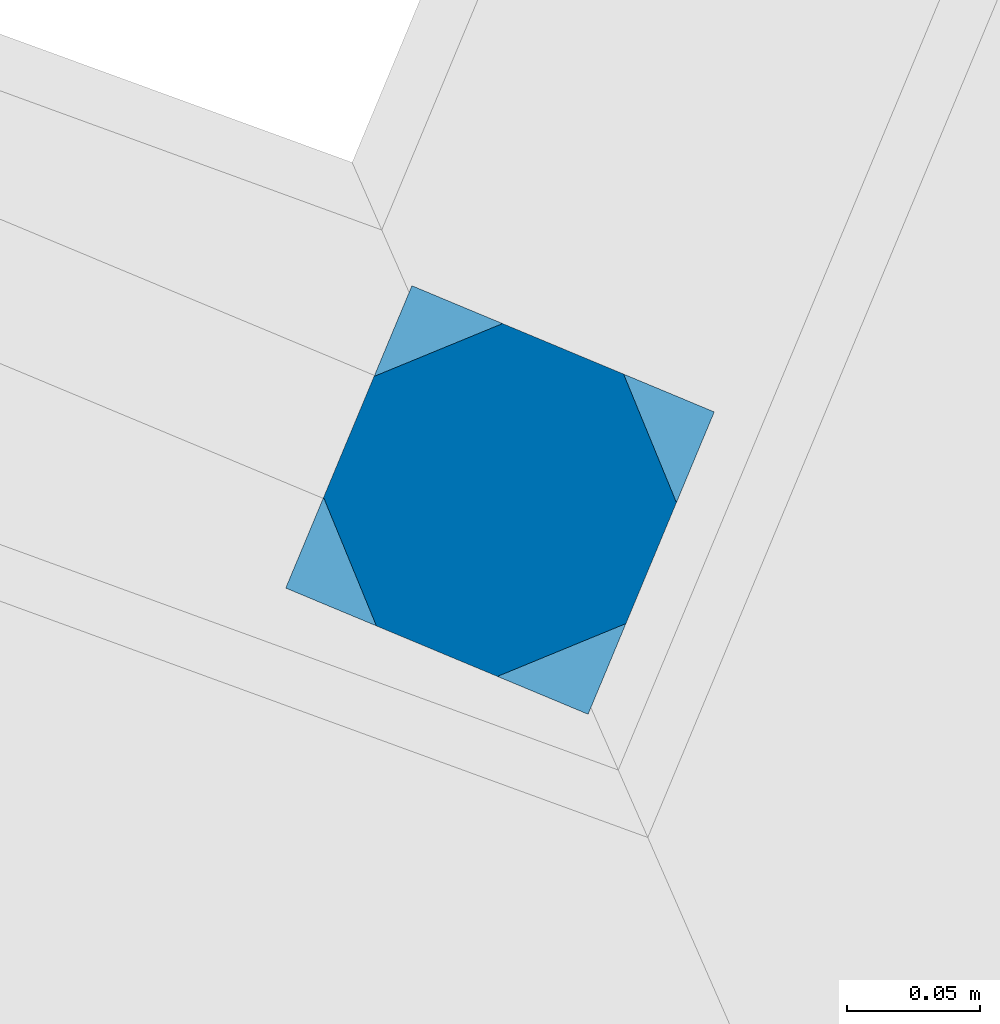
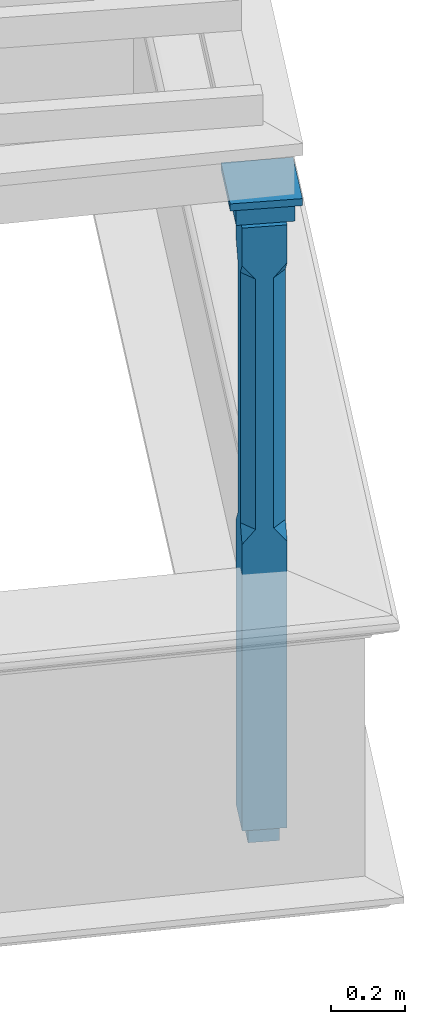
# One storey, part 6 of 7: 1 column.
"""IFC4 building model written with IfcOpenShell, lengths in metres."""

from ifc_helpers import new_model, si_unit, frame, origin, origin_with_axes, place, context, subcontext, project, spatial, faceted_brep, source, transform, mapped, type_object, type_shapes, element, save


model = new_model("IFC4")

# Units and contexts
model_context = context("Model", 3, world=origin_with_axes())
body_context = subcontext(model_context, "Body", "Model", "MODEL_VIEW")
ifc_project = project(units=[si_unit("PLANEANGLEUNIT", "RADIAN"), si_unit("MASSUNIT", "GRAM", prefix="KILO"), si_unit("FORCEUNIT", "NEWTON", prefix="KILO"), si_unit("LENGTHUNIT", "METRE"), si_unit("AREAUNIT", "SQUARE_METRE"), si_unit("VOLUMEUNIT", "CUBIC_METRE")], contexts=[model_context, model_context])

# Sites, building, storey
site_1_placement = place(None, origin_with_axes())
site_1 = spatial("IfcSite", under=ifc_project, at=site_1_placement, Name="Tamar")
site_2_placement = place(site_1_placement, origin_with_axes())
site_2 = spatial("IfcSite", under=site_1, at=site_2_placement, Name="Site plot-13", CompositionType="ELEMENT")
building_placement = place(None, origin_with_axes())
building = spatial("IfcBuilding", under=site_2, at=building_placement, Name="Building plot-13", CompositionType="ELEMENT")
storey_placement = place(None, frame((0.0, 0.0, 29.0), z_axis=(0.0, 0.0, 1.0), x_axis=(1.0, 0.0, 0.0)))
storey = spatial("IfcBuildingStorey", under=building, at=storey_placement, Name="plot-13 1", CompositionType="ELEMENT", Elevation=29.0)

# Column
column_type = type_object("IfcColumnType", Name="pergola post", PredefinedType="NOTDEFINED")
shared_shape = source(origin(), body_context, "Body", "Brep", [
    faceted_brep([(0.0246, -0.0615, 1.87), (0.0615, -0.0246, 1.87), (0.0615, -0.0615, 1.916667), (0.0615, -0.0246, 1.044444), (0.0246, -0.0615, 1.044444), (0.0615, 0.0246, 1.87), (0.0615, 0.0615, 1.916667), (-0.0246, -0.0615, 1.87), (-0.0615, -0.0615, 1.916667), (-0.0246, -0.0615, 1.044444), (0.0615, -0.0615, 0.997778), (0.0615, 0.0246, 1.044444), (0.0246, 0.0615, 1.87), (0.0615, 0.0615, 2.041111), (0.0615, -0.0615, 2.041111), (-0.0615, -0.0615, 2.041111), (-0.0615, -0.0246, 1.87), (-0.0615, -0.0246, 1.044444), (-0.0615, -0.0615, 0.997778), (0.0615, 0.0615, 0.997778), (0.0246, 0.0615, 1.044444), (-0.0246, 0.0615, 1.87), (-0.0615, 0.0615, 1.916667), (0.04305, 0.04305, 2.041111), (0.04305, -0.04305, 2.041111), (-0.0615, 0.0615, 2.041111), (-0.04305, -0.04305, 2.041111), (-0.0615, 0.0246, 1.87), (-0.0615, 0.0246, 1.044444), (0.0615, -0.0615, 0.053333), (-0.0615, -0.0615, 0.053333), (0.0615, 0.0615, 0.053333), (-0.0246, 0.0615, 1.044444), (-0.04305, 0.04305, 2.041111), (0.04305, 0.04305, 2.064444), (0.04305, -0.04305, 2.064444), (-0.04305, -0.04305, 2.064444), (-0.0615, 0.0615, 0.997778), (-0.0615, 0.0615, 0.053333), (-0.04305, -0.04305, 0.053333), (0.04305, -0.04305, 0.053333), (0.04305, 0.04305, 0.053333), (-0.04305, 0.04305, 2.064444), (0.07995, 0.07995, 2.064444), (0.07995, -0.07995, 2.064444), (-0.07995, -0.07995, 2.064444), (-0.04305, 0.04305, 0.053333), (-0.04305, -0.04305, 0.0), (0.04305, -0.04305, 0.0), (0.04305, 0.04305, 0.0), (-0.07995, 0.07995, 2.064444), (0.07995, 0.07995, 2.126667), (0.07995, -0.07995, 2.126667), (-0.07995, -0.07995, 2.126667), (-0.04305, 0.04305, 0.0), (-0.07995, 0.07995, 2.126667), (0.0984, 0.0984, 2.126667), (0.0984, -0.0984, 2.126667), (-0.0984, -0.0984, 2.126667), (-0.0984, 0.0984, 2.126667), (0.0984, 0.0984, 2.15), (0.0984, -0.0984, 2.15), (-0.0984, -0.0984, 2.15), (-0.0984, 0.0984, 2.15)], [[[0, 1, 2]], [[3, 1, 0, 4]], [[1, 5, 6, 2]], [[7, 0, 2, 8]], [[4, 0, 7, 9]], [[3, 4, 10]], [[1, 3, 11, 5]], [[5, 12, 6]], [[13, 14, 2, 6]], [[15, 8, 2, 14]], [[8, 16, 7]], [[9, 7, 16, 17]], [[9, 18, 10, 4]], [[3, 10, 19, 11]], [[20, 12, 5, 11]], [[21, 22, 6, 12]], [[14, 13, 23, 24]], [[13, 6, 22, 25]], [[25, 22, 8, 15]], [[26, 15, 14, 24]], [[16, 8, 22, 27]], [[27, 28, 17, 16]], [[17, 18, 9]], [[29, 10, 18, 30]], [[31, 19, 10, 29]], [[20, 11, 19]], [[12, 20, 32, 21]], [[21, 27, 22]], [[33, 23, 13, 25]], [[23, 34, 35, 24]], [[26, 33, 25, 15]], [[36, 26, 24, 35]], [[28, 27, 21, 32]], [[17, 28, 37, 18]], [[38, 30, 18, 37]], [[29, 30, 39, 40]], [[31, 38, 37, 19]], [[40, 41, 31, 29]], [[32, 20, 19, 37]], [[33, 42, 34, 23]], [[43, 44, 35, 34]], [[42, 33, 26, 36]], [[36, 35, 44, 45]], [[28, 32, 37]], [[46, 39, 30, 38]], [[39, 47, 48, 40]], [[46, 38, 31, 41]], [[49, 41, 40, 48]], [[43, 34, 42, 50]], [[43, 51, 52, 44]], [[45, 50, 42, 36]], [[53, 45, 44, 52]], [[46, 54, 47, 39]], [[54, 46, 41, 49]], [[50, 55, 51, 43]], [[56, 57, 52, 51]], [[55, 50, 45, 53]], [[53, 52, 57, 58]], [[56, 51, 55, 59]], [[56, 60, 61, 57]], [[58, 59, 55, 53]], [[62, 58, 57, 61]], [[59, 63, 60, 56]], [[63, 62, 61, 60]], [[58, 62, 63, 59]], [[47, 54, 49, 48]]]),
])
type_shapes(column_type, [shared_shape])
column_placement = place(storey_placement, frame((248.338789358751, 296.089360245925, 0.0), z_axis=(0.0, 0.0, 1.0), x_axis=(0.385150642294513, 0.922853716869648, 0.0)))
element("IfcColumn", 1, at=column_placement, inside=storey, type_object=column_type, Name="pergola post", context=body_context, shape_type="MappedRepresentation", body=[
    mapped(shared_shape, transform((0.0, 0.0, 0.0), scale=1.0)),
])

save(model, "model.ifc")
